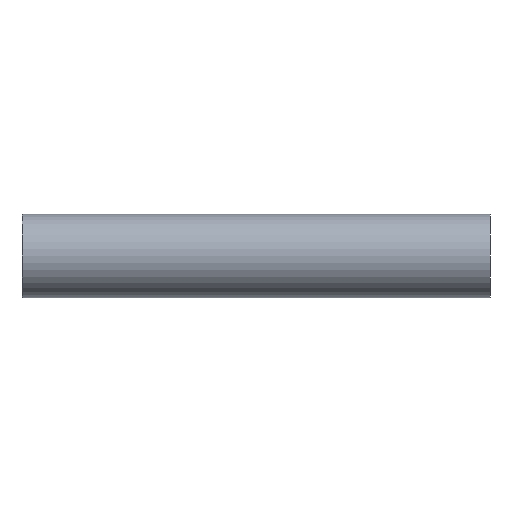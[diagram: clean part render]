
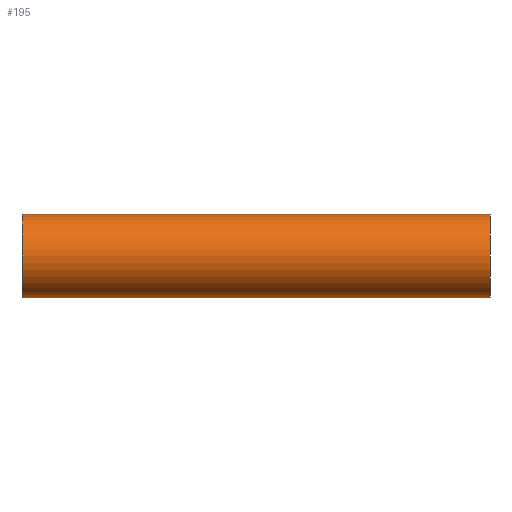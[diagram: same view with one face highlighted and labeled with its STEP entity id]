
A CAD part, front view. The second image highlights one B-rep face of the part: STEP entity #195.
In plain terms, the highlighted cylindrical face has radius 9.525 mm (diameter 19.05 mm), a partial arc.
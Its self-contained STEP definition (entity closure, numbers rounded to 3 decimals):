
#1 = FACE_OUTER_BOUND ( 'NONE', #370, .T. ) ;
#20 = EDGE_CURVE ( 'NONE', #161, #191, #454, .T. ) ;
#22 = EDGE_CURVE ( 'NONE', #202, #161, #197, .T. ) ;
#54 = AXIS2_PLACEMENT_3D ( 'NONE', #331, #231, #334 ) ;
#62 = EDGE_CURVE ( 'NONE', #313, #202, #187, .T. ) ;
#68 = CARTESIAN_POINT ( 'NONE',  ( 80.441, 0., 9.525 ) ) ;
#70 = CARTESIAN_POINT ( 'NONE',  ( -53.5, 0., 0. ) ) ;
#124 = AXIS2_PLACEMENT_3D ( 'NONE', #201, #275, #353 ) ;
#146 = VECTOR ( 'NONE', #166, 1000. ) ;
#148 = CARTESIAN_POINT ( 'NONE',  ( -53.5, 0., -9.525 ) ) ;
#161 = VERTEX_POINT ( 'NONE', #198 ) ;
#166 = DIRECTION ( 'NONE',  ( -1., 0., 0. ) ) ;
#180 = LINE ( 'NONE', #251, #146 ) ;
#187 = CIRCLE ( 'NONE', #124, 9.525 ) ;
#191 = VERTEX_POINT ( 'NONE', #148 ) ;
#195 = ADVANCED_FACE ( 'NONE', ( #1 ), #269, .T. ) ;
#197 = LINE ( 'NONE', #68, #396 ) ;
#198 = CARTESIAN_POINT ( 'NONE',  ( -53.5, 0., 9.525 ) ) ;
#201 = CARTESIAN_POINT ( 'NONE',  ( 53.5, 0., 0. ) ) ;
#202 = VERTEX_POINT ( 'NONE', #447 ) ;
#214 = ORIENTED_EDGE ( 'NONE', *, *, #20, .T. ) ;
#231 = DIRECTION ( 'NONE',  ( -1., 0., 0. ) ) ;
#236 = DIRECTION ( 'NONE',  ( 0., 0., 1. ) ) ;
#240 = DIRECTION ( 'NONE',  ( -1., 0., 0. ) ) ;
#246 = CARTESIAN_POINT ( 'NONE',  ( 53.5, 0., -9.525 ) ) ;
#251 = CARTESIAN_POINT ( 'NONE',  ( 80.441, 0., -9.525 ) ) ;
#269 = CYLINDRICAL_SURFACE ( 'NONE', #54, 9.525 ) ;
#272 = DIRECTION ( 'NONE',  ( 1., 0., 0. ) ) ;
#275 = DIRECTION ( 'NONE',  ( -1., 0., 0. ) ) ;
#289 = ORIENTED_EDGE ( 'NONE', *, *, #62, .T. ) ;
#313 = VERTEX_POINT ( 'NONE', #246 ) ;
#331 = CARTESIAN_POINT ( 'NONE',  ( 80.441, 0., 0. ) ) ;
#334 = DIRECTION ( 'NONE',  ( 0., 0., 1. ) ) ;
#353 = DIRECTION ( 'NONE',  ( 0., 0., 1. ) ) ;
#370 = EDGE_LOOP ( 'NONE', ( #448, #289, #484, #214 ) ) ;
#394 = EDGE_CURVE ( 'NONE', #313, #191, #180, .T. ) ;
#396 = VECTOR ( 'NONE', #240, 1000. ) ;
#447 = CARTESIAN_POINT ( 'NONE',  ( 53.5, 0., 9.525 ) ) ;
#448 = ORIENTED_EDGE ( 'NONE', *, *, #394, .F. ) ;
#454 = CIRCLE ( 'NONE', #482, 9.525 ) ;
#482 = AXIS2_PLACEMENT_3D ( 'NONE', #70, #272, #236 ) ;
#484 = ORIENTED_EDGE ( 'NONE', *, *, #22, .T. ) ;
